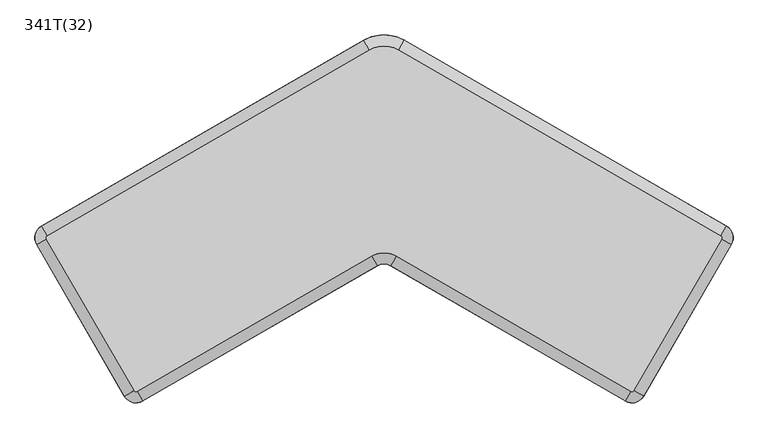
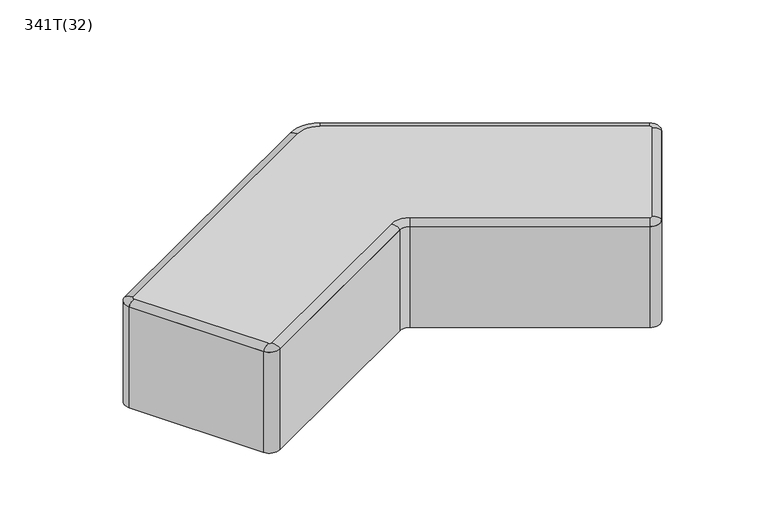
"""IFC4 building model written with IfcOpenShell, lengths in millimetres: furniture geometry, Bit Twist : 341T(32)."""

import ifcopenshell
import ifcopenshell.guid

model = None  # the IFC model being written
_history = None  # IfcOwnerHistory: only IFC2X3 demands one
_inside = {}  # id of a spatial element -> (the spatial element, [elements in it])
_under = {}  # id of a project, library or spatial element -> (it, [spatial elements below it])
_declared = {}  # id of a project -> (the project, [libraries it declares])
_typed = {}  # id of a type object -> (the type object, [elements of that type])
_made_of = {}  # id of a material, layer set ... -> (it, [elements and type objects made of it])


def new_model(schema):
    """Start an empty IFC model of exactly this schema.

    Asked for "IFC4X3", IfcOpenShell would pick the latest addendum, in which some entities
    have other attributes; the version numbers below select the first issue.
    IFC2X3 requires an IfcOwnerHistory on every rooted entity: one is made here for all.
    """
    global model, _history
    if schema == "IFC4X3":
        model = ifcopenshell.file(schema_version=(4, 3, 0, 0))
    else:
        model = ifcopenshell.file(schema=schema)
    _inside.clear()
    _under.clear()
    _declared.clear()
    _typed.clear()
    _made_of.clear()
    _history = None
    if model.schema == "IFC2X3":
        org = make("IfcOrganization", Name="unknown")
        user = make(
            "IfcPersonAndOrganization",
            ThePerson=make("IfcPerson", FamilyName="unknown"),
            TheOrganization=org,
        )
        app = make(
            "IfcApplication",
            ApplicationDeveloper=org,
            Version="unknown",
            ApplicationFullName="unknown",
            ApplicationIdentifier="unknown",
        )
        _history = make(
            "IfcOwnerHistory",
            OwningUser=user,
            OwningApplication=app,
            ChangeAction="ADDED",
            CreationDate=0,
        )
    return model


def make(cls, **values):
    """One entity of the class cls with the attributes given. An attribute that is None is left unset."""
    return model.create_entity(
        cls, **{name: value for name, value in values.items() if value is not None}
    )


def rooted(cls, **values):
    """An entity with a GlobalId (a new one), such as an element, a storey or a relation."""
    return make(cls, GlobalId=ifcopenshell.guid.new(), OwnerHistory=_history, **values)


def si_unit(unit_type, name, prefix=None):
    """IfcSIUnit, for example si_unit("LENGTHUNIT", "METRE", prefix="MILLI")."""
    return make("IfcSIUnit", UnitType=unit_type, Prefix=prefix, Name=name)


def assignment(units):
    """IfcUnitAssignment: the units of a project."""
    return None if units is None else make("IfcUnitAssignment", Units=units)


def point(xyz):
    """IfcCartesianPoint."""
    return None if xyz is None else make("IfcCartesianPoint", Coordinates=xyz)


def direction(xyz):
    """IfcDirection."""
    return None if xyz is None else make("IfcDirection", DirectionRatios=xyz)


def frame(location, z_axis=None, x_axis=None):
    """IfcAxis2Placement3D, a coordinate frame: its origin and axes. An axis left out is left unset."""
    return make(
        "IfcAxis2Placement3D",
        Location=point(location),
        Axis=direction(z_axis),
        RefDirection=direction(x_axis),
    )


def frame_2d(location, x_axis=None):
    """IfcAxis2Placement2D, a coordinate frame in the plane: its origin and x axis."""
    return make(
        "IfcAxis2Placement2D", Location=point(location), RefDirection=direction(x_axis)
    )


def origin():
    """The frame at (0, 0, 0) with its axes left unset."""
    return frame((0.0, 0.0, 0.0))


def origin_with_axes():
    """The frame at (0, 0, 0) with the z axis (0, 0, 1) and the x axis (1, 0, 0) written out."""
    return frame((0.0, 0.0, 0.0), z_axis=(0.0, 0.0, 1.0), x_axis=(1.0, 0.0, 0.0))


def place(relative_to, where):
    """IfcLocalPlacement: puts the frame where relative to a parent placement (None: the world)."""
    return make(
        "IfcLocalPlacement", PlacementRelTo=relative_to, RelativePlacement=where
    )


def context(
    kind, dimensions, precision=None, world=None, true_north=None, identifier=None
):
    """IfcGeometricRepresentationContext, for example the 3D "Model" context."""
    return make(
        "IfcGeometricRepresentationContext",
        ContextIdentifier=identifier,
        ContextType=kind,
        CoordinateSpaceDimension=dimensions,
        Precision=precision,
        WorldCoordinateSystem=world,
        TrueNorth=true_north,
    )


def project(units=None, contexts=None):
    """IfcProject with its units and contexts."""
    return rooted(
        "IfcProject",
        Name="project",
        RepresentationContexts=contexts,
        UnitsInContext=assignment(units),
    )


def spatial(cls, under=None, at=None, **own):
    """A site, building, storey or space (cls), placed at a placement, below another one or the project."""
    s = rooted(cls, ObjectPlacement=at, **own)
    if under is not None:
        _under.setdefault(under.id(), (under, []))[1].append(s)
    return s


def polyline(points):
    """IfcPolyline through the points."""
    return make("IfcPolyline", Points=[point(p) for p in points])


def circle_curve(where, radius):
    """IfcCircle in the frame where."""
    return make("IfcCircle", Position=where, Radius=radius)


def ellipse_curve(where, semi_axis1, semi_axis2):
    """IfcEllipse in the frame where."""
    return make(
        "IfcEllipse", Position=where, SemiAxis1=semi_axis1, SemiAxis2=semi_axis2
    )


def trimmed(basis, trim1, trim2, sense, master):
    """IfcTrimmedCurve: the piece of a basis curve between two trims."""
    return make(
        "IfcTrimmedCurve",
        BasisCurve=basis,
        Trim1=trim1,
        Trim2=trim2,
        SenseAgreement=sense,
        MasterRepresentation=master,
    )


def segment(curve, same_sense, transition):
    """IfcCompositeCurveSegment."""
    return make(
        "IfcCompositeCurveSegment",
        Transition=transition,
        SameSense=same_sense,
        ParentCurve=curve,
    )


def composite_curve(segments, self_intersect=None):
    """IfcCompositeCurve: segments joined end to end."""
    return make("IfcCompositeCurve", Segments=segments, SelfIntersect=self_intersect)


def outline(outer, holes=None, kind="AREA"):
    """IfcArbitraryClosedProfileDef: a profile drawn as a closed curve; with holes, ...WithVoids."""
    if holes is None:
        return make("IfcArbitraryClosedProfileDef", ProfileType=kind, OuterCurve=outer)
    return make(
        "IfcArbitraryProfileDefWithVoids",
        ProfileType=kind,
        OuterCurve=outer,
        InnerCurves=holes,
    )


def extrude(swept, where, along, depth):
    """IfcExtrudedAreaSolid: the profile swept, set in the frame where, extruded along a direction by depth."""
    return make(
        "IfcExtrudedAreaSolid",
        SweptArea=swept,
        Position=where,
        ExtrudedDirection=direction(along),
        Depth=depth,
    )


def shape(context_of_items, identifier, shape_type, items):
    """IfcShapeRepresentation: the items that make up one representation, for example the "Body"."""
    return make(
        "IfcShapeRepresentation",
        ContextOfItems=context_of_items,
        RepresentationIdentifier=identifier,
        RepresentationType=shape_type,
        Items=items,
    )


def source(mapping_origin, context_of_items, identifier, shape_type, items):
    """IfcRepresentationMap: a shape defined once, which mapped items show again and again."""
    return make(
        "IfcRepresentationMap",
        MappingOrigin=mapping_origin,
        MappedRepresentation=shape(context_of_items, identifier, shape_type, items),
    )


def transform(
    local_origin,
    x_axis=None,
    y_axis=None,
    z_axis=None,
    scale=None,
    scale2=None,
    scale3=None,
    uniform=True,
):
    """IfcCartesianTransformationOperator3D, or its non-uniform kind. x_axis, y_axis, z_axis: its Axis1, 2, 3."""
    if uniform:
        return make(
            "IfcCartesianTransformationOperator3D",
            Axis1=direction(x_axis),
            Axis2=direction(y_axis),
            LocalOrigin=point(local_origin),
            Scale=scale,
            Axis3=direction(z_axis),
        )
    return make(
        "IfcCartesianTransformationOperator3DnonUniform",
        Axis1=direction(x_axis),
        Axis2=direction(y_axis),
        LocalOrigin=point(local_origin),
        Scale=scale,
        Axis3=direction(z_axis),
        Scale2=scale2,
        Scale3=scale3,
    )


def mapped(mapping_source, mapping_target):
    """IfcMappedItem: shows the shape of a source again, moved by a transform."""
    return make(
        "IfcMappedItem", MappingSource=mapping_source, MappingTarget=mapping_target
    )


def made_of(thing, what):
    """Note that an element or type object is made of a material, layer set ...; save() writes the relation."""
    if what is not None:
        _made_of.setdefault(what.id(), (what, []))[1].append(thing)
    return thing


def element(
    cls,
    number,
    at=None,
    inside=None,
    cuts=None,
    type_object=None,
    material=None,
    context=None,
    identifier="Body",
    shape_type=None,
    held_by="IfcProductDefinitionShape",
    body=None,
    shapes=None,
    **own,
):
    """One element of the class cls, such as IfcWall. Its Tag is "e" and its number.

    at: its placement. inside: the storey or other place that contains it. cuts: it is an
    opening in that element (IfcRelVoidsElement). A single representation is given by context,
    identifier, shape_type and body (its items); several are given by shapes. held_by: the class
    of the entity that holds the representations. save() writes the other relations.
    """
    e = rooted(cls, Tag="e%d" % number, ObjectPlacement=at, **own)
    if body is not None:
        shapes = [shape(context, identifier, shape_type, body)]
    if shapes is not None:
        e.Representation = make(held_by, Representations=shapes)
    if inside is not None:
        _inside.setdefault(inside.id(), (inside, []))[1].append(e)
    if cuts is not None:
        rooted(
            "IfcRelVoidsElement", RelatingBuildingElement=cuts, RelatedOpeningElement=e
        )
    if type_object is not None:
        _typed.setdefault(type_object.id(), (type_object, []))[1].append(e)
    return made_of(e, material)


def aggregate(whole, parts):
    """IfcRelAggregates: a whole, such as a stair, and the parts it consists of."""
    return rooted("IfcRelAggregates", RelatingObject=whole, RelatedObjects=parts)


def save(model, path):
    """Write the relations noted so far, then the file.

    IfcRelAggregates (storeys below a building ...), IfcRelContainedInSpatialStructure (elements
    in a storey), IfcRelDefinesByType, IfcRelAssociatesMaterial and IfcRelDeclares: one each for
    every whole, place, type object, material and project.
    """
    for whole, parts in _under.values():
        aggregate(whole, parts)
    for where, things in _inside.values():
        rooted(
            "IfcRelContainedInSpatialStructure",
            RelatedElements=things,
            RelatingStructure=where,
        )
    for kind, things in _typed.values():
        rooted("IfcRelDefinesByType", RelatedObjects=things, RelatingType=kind)
    for what, things in _made_of.values():
        rooted("IfcRelAssociatesMaterial", RelatedObjects=things, RelatingMaterial=what)
    for by, libraries in _declared.values():
        rooted("IfcRelDeclares", RelatingContext=by, RelatedDefinitions=libraries)
    model.write(path)


def plane_surface(at):
    """IfcPlane: the flat surface through the origin of the frame at, square to its z axis."""
    return make("IfcPlane", Position=at)


def revolved_surface(curve, axis_point, axis_direction):
    """IfcSurfaceOfRevolution: the curve turned about the line through axis_point along axis_direction."""
    return make(
        "IfcSurfaceOfRevolution",
        SweptCurve=make("IfcArbitraryOpenProfileDef", ProfileType="CURVE", Curve=curve),
        AxisPosition=make("IfcAxis1Placement", Location=point(axis_point), Axis=direction(axis_direction)),
    )


def extruded_surface(curve, direction_of_extrusion, depth):
    """IfcSurfaceOfLinearExtrusion: the curve pushed along a direction by depth."""
    return make(
        "IfcSurfaceOfLinearExtrusion",
        SweptCurve=make("IfcArbitraryOpenProfileDef", ProfileType="CURVE", Curve=curve),
        ExtrudedDirection=direction(direction_of_extrusion),
        Depth=depth,
    )


def advanced_brep(points, edges, surfaces, faces):
    """IfcAdvancedBrep: a solid bounded by faces that lie on surfaces and meet in shared edges.

    An edge is (start, end): straight between two places in points (the first is 0);
    or (start, end, curve); or (start, end, curve, False) where it runs against its curve.
    A face is (place in surfaces, loops), or (place, loops, False) where it looks against
    its surface's normal. A loop lists edges by number (the first is 1), with a minus sign
    where the edge is run from its end to its start. The first loop is the outer one.
    """
    corners = [point(p) for p in points]
    vertices = [make("IfcVertexPoint", VertexGeometry=c) for c in corners]
    made = []
    for start, end, *more in edges:
        made.append(
            make(
                "IfcEdgeCurve",
                EdgeStart=vertices[start],
                EdgeEnd=vertices[end],
                EdgeGeometry=more[0] if more else make("IfcPolyline", Points=[corners[start], corners[end]]),
                SameSense=more[1] if len(more) > 1 else True,
            )
        )
    hull = []
    for where, loops, *sense in faces:
        bounds = []
        for j, loop in enumerate(loops):
            ring = [make("IfcOrientedEdge", EdgeElement=made[abs(k) - 1], Orientation=k > 0) for k in loop]
            bounds.append(
                make(
                    "IfcFaceOuterBound" if j == 0 else "IfcFaceBound",
                    Bound=make("IfcEdgeLoop", EdgeList=ring),
                    Orientation=True,
                )
            )
        hull.append(make("IfcAdvancedFace", Bounds=bounds, FaceSurface=surfaces[where], SameSense=sense[0] if sense else True))
    return make("IfcAdvancedBrep", Outer=make("IfcClosedShell", CfsFaces=hull))


def furniture_341t_32_6d22d566(model_context):
    return source(origin(), model_context, "Body", "SolidModel", [
        advanced_brep(
        [(751.2658774, -13.4807621, 320.0), (749.4359482, -6.6507494, 320.0), (32.5025725, 407.3146157, 320.0), (-32.5036954, 407.3139674, 320.0), (-749.4030097, -6.6507993, 320.0), (-751.2330358, -13.4804445, 320.0), (-556.2660606, -351.230352, 320.0), (-549.4357503, -353.0607966, 320.0), (-27.5, -51.7210506, 320.0), (27.5, -51.7210506, 320.0), (549.4357503, -353.0607966, 320.0), (556.2658774, -351.2306696, 320.0), (772.9165125, -25.9807621, 310.0), (761.9369377, 14.9993145, 310.0), (45.003562, 428.9646795, 310.0), (-45.0051168, 428.9637819, 310.0), (-761.904431, 14.9990151, 310.0), (-772.8845875, -25.9788567, 310.0), (-577.9176124, -363.7287641, 310.0), (-536.9357503, -374.7114317, 310.0), (-15.0, -73.3716857, 310.0), (15.0, -73.3716857, 310.0), (536.9357503, -374.7114317, 310.0), (577.9165125, -363.7306696, 310.0)],
        [
            (0, 1, circle_curve(frame((746.9357503, -10.9807621, 320.0), z_axis=(0.0, 0.0, 1.0), x_axis=(0.8660254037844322, -0.5000000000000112, 0.0)), 5.0)),
            (1, 2),
            (2, 3, circle_curve(frame((0.0, 351.0244499, 320.0), z_axis=(0.0, 0.0, 1.0), x_axis=(0.5000395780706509, 0.8660025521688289, 0.0)), 65.0)),
            (3, 4),
            (4, 5, circle_curve(frame((-746.9027254, -10.9807621, 320.0), z_axis=(0.0, 0.0, 1.0), x_axis=(-0.5000568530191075, 0.865992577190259, 0.0)), 5.0)),
            (5, 6),
            (6, 7, circle_curve(frame((-551.9357503, -348.7306696, 320.0), z_axis=(0.0, 0.0, 1.0), x_axis=(-0.8660620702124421, -0.49993648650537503, 0.0)), 5.0)),
            (7, 8),
            (8, 9, circle_curve(frame((0.0, -99.3524479, 320.0), z_axis=(0.0, 0.0, -1.0), x_axis=(-0.5000000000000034, 0.8660254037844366, 0.0)), 55.0)),
            (9, 10),
            (10, 11, circle_curve(frame((551.9357503, -348.7306696, 320.0), z_axis=(0.0, 0.0, 1.0), x_axis=(-0.5000000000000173, -0.8660254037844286, 0.0)), 5.0)),
            (11, 0),
            (0, 12, ellipse_curve(frame((751.2658774, -13.4807621, 310.0), z_axis=(0.5000000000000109, 0.8660254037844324, 0.0), x_axis=(0.8660254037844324, -0.5000000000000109, 0.0)), 25.0, 10.0)),
            (12, 13, circle_curve(frame((746.9357503, -10.9807621, 310.0), z_axis=(0.0, 0.0, 1.0), x_axis=(0.8660254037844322, -0.5000000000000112, 0.0)), 30.0)),
            (13, 1, ellipse_curve(frame((749.4359482, -6.6507494, 310.0), z_axis=(0.8660025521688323, -0.5000395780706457, 0.0), x_axis=(0.5000395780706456, 0.866002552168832, 0.0)), 25.0, 10.0)),
            (13, 14),
            (14, 2, ellipse_curve(frame((32.5025726, 407.3146158, 310.0), z_axis=(0.8660025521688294, -0.5000395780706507, 0.0), x_axis=(0.5000395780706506, 0.8660025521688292, 0.0)), 25.0, 10.0)),
            (14, 15, circle_curve(frame((0.0, 351.0244499, 310.0), z_axis=(0.0, 0.0, 1.0), x_axis=(0.5000395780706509, 0.8660025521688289, 0.0)), 90.0)),
            (15, 3, ellipse_curve(frame((-32.5036954, 407.3139674, 310.0), z_axis=(0.8659925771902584, 0.5000568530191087, 0.0), x_axis=(-0.5000568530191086, 0.8659925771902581, 0.0)), 25.0, 10.0)),
            (15, 16),
            (16, 4, ellipse_curve(frame((-749.4030097, -6.6507992, 310.0), z_axis=(0.8659925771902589, 0.5000568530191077, 0.0), x_axis=(-0.5000568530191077, 0.8659925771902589, 0.0)), 25.0, 10.0)),
            (16, 17, circle_curve(frame((-746.9027254, -10.9807621, 310.0), z_axis=(0.0, 0.0, 1.0), x_axis=(-0.5000568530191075, 0.865992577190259, 0.0)), 30.0)),
            (17, 5, ellipse_curve(frame((-751.2330358, -13.4804445, 310.0), z_axis=(-0.4999364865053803, 0.8660620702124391, 0.0), x_axis=(-0.8660620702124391, -0.4999364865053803, 0.0)), 25.0, 10.0)),
            (17, 18),
            (18, 6, ellipse_curve(frame((-556.2660607, -351.230352, 310.0), z_axis=(-0.49993648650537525, 0.866062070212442, 0.0), x_axis=(-0.866062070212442, -0.49993648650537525, 0.0)), 25.0, 10.0)),
            (18, 19, circle_curve(frame((-551.9357503, -348.7306696, 310.0), z_axis=(0.0, 0.0, 1.0), x_axis=(-0.8660620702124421, -0.49993648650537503, 0.0)), 30.0)),
            (19, 7, ellipse_curve(frame((-549.4357503, -353.0607966, 310.0), z_axis=(-0.8660254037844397, -0.49999999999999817, 0.0), x_axis=(0.49999999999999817, -0.8660254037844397, 0.0)), 25.0, 10.0)),
            (19, 20),
            (20, 8, ellipse_curve(frame((-27.5, -51.7210506, 310.0), z_axis=(-0.8660254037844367, -0.5000000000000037, 0.0), x_axis=(0.5000000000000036, -0.8660254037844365, 0.0)), 25.0, 10.0)),
            (20, 21, circle_curve(frame((0.0, -99.3524479, 310.0), z_axis=(0.0, 0.0, -1.0), x_axis=(-0.5000000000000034, 0.8660254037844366, 0.0)), 30.0)),
            (21, 9, ellipse_curve(frame((27.5, -51.7210506, 310.0), z_axis=(-0.8660254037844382, 0.5000000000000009, 0.0), x_axis=(-0.5000000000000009, -0.8660254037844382, 0.0)), 25.0, 10.0)),
            (21, 22),
            (22, 10, ellipse_curve(frame((549.4357503, -353.0607966, 310.0), z_axis=(-0.8660254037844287, 0.5000000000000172, 0.0), x_axis=(-0.5000000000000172, -0.8660254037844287, 0.0)), 25.0, 10.0)),
            (22, 23, circle_curve(frame((551.9357503, -348.7306696, 310.0), z_axis=(0.0, 0.0, 1.0), x_axis=(-0.5000000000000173, -0.8660254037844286, 0.0)), 30.0)),
            (23, 11, ellipse_curve(frame((556.2658774, -351.2306696, 310.0), z_axis=(-0.5000000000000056, -0.8660254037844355, 0.0), x_axis=(0.8660254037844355, -0.5000000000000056, 0.0)), 25.0, 10.0)),
            (12, 23),
        ],
        [
            plane_surface(frame((32.5025726, 407.3146158, 320.0), z_axis=(0.0, 0.0, 1.0), x_axis=(-0.8660025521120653, 0.500039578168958, 0.0))),
            revolved_surface(trimmed(ellipse_curve(frame((751.2658774, -13.4807621, 310.0), z_axis=(-0.5000000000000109, -0.8660254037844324, 0.0), x_axis=(0.8660254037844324, -0.5000000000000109, 0.0)), 25.0, 10.0), [point((772.9165125, -25.9807621, 310.0))], [point((751.2658774, -13.4807621, 320.0))], True, "CARTESIAN"), (746.9357503, -10.9807621, 310.0), (0.0, 0.0, 1.0)),
            extruded_surface(trimmed(ellipse_curve(frame((32.5025725, 407.3146157, 310.0), z_axis=(0.8660025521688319, -0.500039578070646, 0.0), x_axis=(0.500039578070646, 0.8660025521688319, 0.0)), 25.0, 10.0), [point((45.003562, 428.9646795, 310.0))], [point((32.5025725, 407.3146157, 320.0))], True, "CARTESIAN"), (716.9333756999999, -413.9653651, 0.0), 827.8651995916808),
            revolved_surface(trimmed(ellipse_curve(frame((32.5025726, 407.3146158, 310.0), z_axis=(0.8660025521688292, -0.5000395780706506, 0.0), x_axis=(0.5000395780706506, 0.8660025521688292, 0.0)), 25.0, 10.0), [point((45.003562, 428.9646796, 310.0))], [point((32.5025726, 407.3146158, 320.0))], True, "CARTESIAN"), (0.0, 351.0244499, 310.0), (0.0, 0.0, 1.0)),
            extruded_surface(trimmed(ellipse_curve(frame((-749.4030097, -6.6507993, 310.0), z_axis=(0.8659925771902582, 0.5000568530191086, 0.0), x_axis=(-0.5000568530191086, 0.8659925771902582, 0.0)), 25.0, 10.0), [point((-761.904431, 14.9990151, 310.0))], [point((-749.4030097, -6.6507993, 320.0))], True, "CARTESIAN"), (716.8993144, 413.9647666, 0.0), 827.8354033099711),
            revolved_surface(trimmed(ellipse_curve(frame((-749.4030097, -6.6507992, 310.0), z_axis=(0.8659925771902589, 0.5000568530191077, 0.0), x_axis=(-0.5000568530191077, 0.8659925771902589, 0.0)), 25.0, 10.0), [point((-761.904431, 14.9990152, 310.0))], [point((-749.4030097, -6.6507992, 320.0))], True, "CARTESIAN"), (-746.9027254, -10.9807621, 310.0), (0.0, 0.0, 1.0)),
            extruded_surface(trimmed(ellipse_curve(frame((-556.2660606, -351.230352, 310.0), z_axis=(-0.49993648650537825, 0.8660620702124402, 0.0), x_axis=(-0.8660620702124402, -0.49993648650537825, 0.0)), 25.0, 10.0), [point((-577.9176124, -363.7287641, 310.0))], [point((-556.2660606, -351.230352, 320.0))], True, "CARTESIAN"), (-194.9669751, 337.7499075, 0.0), 389.9834886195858),
            revolved_surface(trimmed(ellipse_curve(frame((-556.2660607, -351.230352, 310.0), z_axis=(-0.49993648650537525, 0.866062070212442, 0.0), x_axis=(-0.866062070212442, -0.49993648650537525, 0.0)), 25.0, 10.0), [point((-577.9176125, -363.7287642, 310.0))], [point((-556.2660607, -351.230352, 320.0))], True, "CARTESIAN"), (-551.9357503, -348.7306696, 310.0), (0.0, 0.0, 1.0)),
            extruded_surface(trimmed(ellipse_curve(frame((-27.5, -51.7210506, 310.0), z_axis=(-0.8660254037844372, -0.5000000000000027, 0.0), x_axis=(0.5000000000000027, -0.8660254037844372, 0.0)), 25.0, 10.0), [point((-15.0, -73.3716857, 310.0))], [point((-27.5, -51.7210506, 320.0))], True, "CARTESIAN"), (-521.9357503, -301.339746, 0.0), 602.6794919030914),
            revolved_surface(trimmed(ellipse_curve(frame((-27.5, -51.7210506, 310.0), z_axis=(-0.8660254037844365, -0.5000000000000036, 0.0), x_axis=(0.5000000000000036, -0.8660254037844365, 0.0)), 25.0, 10.0), [point((-15.0, -73.3716857, 310.0))], [point((-27.5, -51.7210506, 320.0))], True, "CARTESIAN"), (0.0, -99.3524479, 310.0), (0.0, 0.0, -1.0)),
            extruded_surface(trimmed(ellipse_curve(frame((549.4357503, -353.0607966, 310.0), z_axis=(-0.8660254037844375, 0.5000000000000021, 0.0), x_axis=(-0.5000000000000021, -0.8660254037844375, 0.0)), 25.0, 10.0), [point((536.9357503, -374.7114317, 310.0))], [point((549.4357503, -353.0607966, 320.0))], True, "CARTESIAN"), (-521.9357503, 301.339746, 0.0), 602.6794919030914),
            revolved_surface(trimmed(ellipse_curve(frame((549.4357503, -353.0607966, 310.0), z_axis=(-0.8660254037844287, 0.5000000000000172, 0.0), x_axis=(-0.5000000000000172, -0.8660254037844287, 0.0)), 25.0, 10.0), [point((536.9357503, -374.7114317, 310.0))], [point((549.4357503, -353.0607966, 320.0))], True, "CARTESIAN"), (551.9357503, -348.7306696, 310.0), (0.0, 0.0, 1.0)),
            plane_surface(frame((556.2658774, -351.2306696, 310.0), z_axis=(0.0, 0.0, -1.0), x_axis=(0.5000000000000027, 0.8660254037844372, 0.0))),
            extruded_surface(trimmed(ellipse_curve(frame((751.2658774, -13.4807621, 310.0), z_axis=(-0.5000000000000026, -0.8660254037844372, 0.0), x_axis=(0.8660254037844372, -0.5000000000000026, 0.0)), 25.0, 10.0), [point((772.9165125, -25.9807621, 310.0))], [point((751.2658774, -13.4807621, 320.0))], True, "CARTESIAN"), (-195.0, -337.7499075, 0.0), 390.0000000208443),
        ],
        [
            (0, [[1, 2, 3, 4, 5, 6, 7, 8, 9, 10, 11, 12]]),
            (1, [[13, 14, 15, -1]]),
            (2, [[-15, 16, 17, -2]]),
            (3, [[-17, 18, 19, -3]]),
            (4, [[-19, 20, 21, -4]]),
            (5, [[-21, 22, 23, -5]]),
            (6, [[-23, 24, 25, -6]]),
            (7, [[-25, 26, 27, -7]]),
            (8, [[-27, 28, 29, -8]]),
            (9, [[-29, 30, 31, -9]]),
            (10, [[-31, 32, 33, -10]]),
            (11, [[-33, 34, 35, -11]]),
            (12, [[-14, 36, -34, -32, -30, -28, -26, -24, -22, -20, -18, -16]]),
            (13, [[-13, -12, -35, -36]]),
        ],
    ),
        extrude(outline(composite_curve([segment(polyline([(-761.9027254, 15.0), (-45.0, 428.9667363)]), True, "CONTINUOUS"), segment(trimmed(circle_curve(frame_2d((0.0, 351.0244499)), 90.0), [point((-45.0, 428.9667363))], [point((45.0, 428.9667363))], False, "CARTESIAN"), True, "CONTINUOUS"), segment(polyline([(45.0, 428.9667363), (761.9357503, 15.0)]), True, "CONTINUOUS"), segment(trimmed(circle_curve(frame_2d((746.9357503, -10.9807621)), 30.0), [point((761.9357503, 15.0))], [point((772.9165125, -25.9807621))], False, "CARTESIAN"), True, "CONTINUOUS"), segment(polyline([(772.9165125, -25.9807621), (577.9165125, -363.7306696)]), True, "CONTINUOUS"), segment(trimmed(circle_curve(frame_2d((551.9357503, -348.7306696)), 30.0), [point((577.9165125, -363.7306696))], [point((536.9357503, -374.7114317))], False, "CARTESIAN"), True, "CONTINUOUS"), segment(polyline([(536.9357503, -374.7114317), (15.0, -73.3716857)]), True, "CONTINUOUS"), segment(trimmed(circle_curve(frame_2d((0.0, -99.3524479)), 30.0), [point((15.0, -73.3716857))], [point((-15.0, -73.3716857))], True, "CARTESIAN"), True, "CONTINUOUS"), segment(polyline([(-15.0, -73.3716857), (-536.9357503, -374.7114317)]), True, "CONTINUOUS"), segment(trimmed(circle_curve(frame_2d((-551.9357503, -348.7306696)), 30.0), [point((-536.9357503, -374.7114317))], [point((-577.9165125, -363.7306696))], False, "CARTESIAN"), True, "CONTINUOUS"), segment(polyline([(-577.9165125, -363.7306696), (-772.8834875, -25.9807621)]), True, "CONTINUOUS"), segment(trimmed(circle_curve(frame_2d((-746.9027254, -10.9807621)), 30.0), [point((-772.8834875, -25.9807621))], [point((-761.9027254, 15.0))], False, "CARTESIAN"), True, "CONTINUOUS")], self_intersect=False)), origin_with_axes(), (0.0, 0.0, 1.0), 310.0),
    ])


if __name__ == "__main__":
    model = new_model("IFC4")
    model_context = context("Model", 3, world=origin())
    ifc_project = project(units=[si_unit("LENGTHUNIT", "METRE", prefix="MILLI")], contexts=[model_context])
    site = spatial("IfcSite", under=ifc_project)
    building = spatial("IfcBuilding", under=site)
    placement = place(None, origin())
    furniture_341t_32_shape = furniture_341t_32_6d22d566(model_context)
    element("IfcFurniture", 1, ObjectType="Bit Twist : 341T(32)", at=placement, inside=building, context=model_context, shape_type="MappedRepresentation", body=[
        mapped(furniture_341t_32_shape, transform((0.0, 0.0, 0.0), x_axis=(1.0, 0.0, 0.0), y_axis=(0.0, 1.0, 0.0), z_axis=(0.0, 0.0, 1.0))),
    ])
    save(model, "model.ifc")
